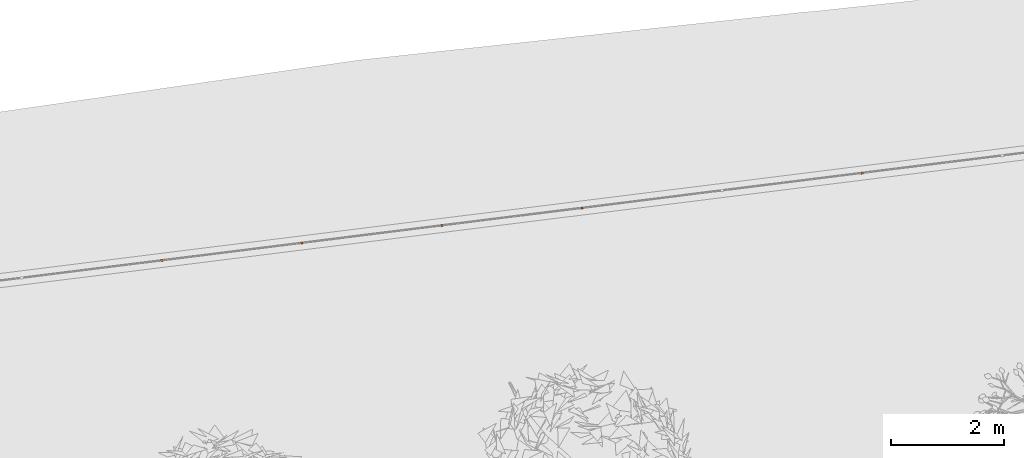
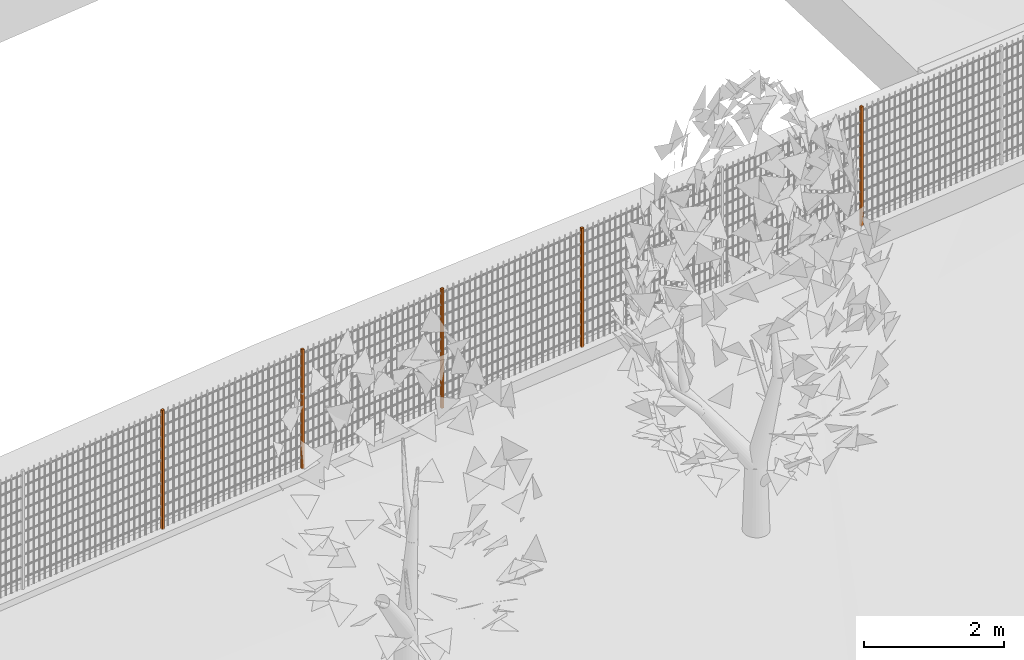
# One storey, part 45 of 1809: 5 proxies, 1 element without a shape of its own.
"""IFC2X3 building model written with IfcOpenShell, lengths in millimetres."""

from ifc_helpers import new_model, entity, si_unit, converted_unit, derived_unit, money_unit, direction, frame, origin_with_axes, place, context, subcontext, project, spatial, faceted_brep, source, transform, mapped, material, type_object, element, aggregate, save


model = new_model("IFC2X3")

# Units and contexts
model_context = context("Model", 3, precision=0.01, world=origin_with_axes(), true_north=direction((0.0, 1.0)))
body_context = subcontext(model_context, "Body", "Model", "MODEL_VIEW")
ifc_project = project(units=[si_unit("LENGTHUNIT", "METRE", prefix="MILLI"), si_unit("AREAUNIT", "SQUARE_METRE"), si_unit("VOLUMEUNIT", "CUBIC_METRE"), converted_unit("PLANEANGLEUNIT", "DEGREE", entity("IfcPlaneAngleMeasure", 0.0174532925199), si_unit("PLANEANGLEUNIT", "RADIAN"), dimensions=[0, 0, 0, 0, 0, 0, 0]), si_unit("SOLIDANGLEUNIT", "STERADIAN"), money_unit("EUR"), converted_unit("TIMEUNIT", "Year", entity("IfcTimeMeasure", 31556926.0), si_unit("TIMEUNIT", "SECOND"), dimensions=[0, 0, 1, 0, 0, 0, 0]), si_unit("MASSUNIT", "GRAM", prefix="KILO"), si_unit("THERMODYNAMICTEMPERATUREUNIT", "DEGREE_CELSIUS"), si_unit("LUMINOUSINTENSITYUNIT", "LUMEN"), si_unit("ENERGYUNIT", "JOULE", prefix="MEGA"), derived_unit("THERMALCONDUCTANCEUNIT", [(si_unit("POWERUNIT", "WATT"), 1), (si_unit("LENGTHUNIT", "METRE"), -1), (si_unit("THERMODYNAMICTEMPERATUREUNIT", "KELVIN"), -1)]), derived_unit("SPECIFICHEATCAPACITYUNIT", [(si_unit("ENERGYUNIT", "JOULE"), 1), (si_unit("MASSUNIT", "GRAM", prefix="KILO"), -1), (si_unit("THERMODYNAMICTEMPERATUREUNIT", "KELVIN"), -1)]), derived_unit("MASSDENSITYUNIT", [(si_unit("MASSUNIT", "GRAM", prefix="KILO"), 1), (si_unit("VOLUMEUNIT", "CUBIC_METRE"), -1)])], contexts=[model_context])

# Site, building, storey
site_placement = place(None, origin_with_axes())
site = spatial("IfcSite", under=ifc_project, at=site_placement, Name="Politse- ja Piirivalveameti ning Päästeameti ühishoone", CompositionType="ELEMENT")
building_placement = place(site_placement, origin_with_axes())
building = spatial("IfcBuilding", under=site, at=building_placement, Name="Politse- ja Piirivalveameti ning Päästeameti ühishoone", CompositionType="ELEMENT")
storey_placement = place(building_placement, origin_with_axes())
storey = spatial("IfcBuildingStorey", under=building, at=storey_placement, Name="Esimene korrus", CompositionType="ELEMENT", Elevation=0.0)

# Proxies
building_element_proxy_type_1 = type_object("IfcBuildingElementProxyType", Name="Railing Type", PredefinedType="NOTDEFINED")
proxy_1_placement = place(storey_placement, frame((44315.9245146, 76650.7857067, 296.762367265), z_axis=(0.0, 0.0, 1.0), x_axis=(0.122151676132, 0.992511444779, 0.0)))
proxy_1 = element("IfcBuildingElementProxy", 1, at=proxy_1_placement, inside=storey, type_object=building_element_proxy_type_1, Name="PIIRDEAED")
ifc_material = material(Name="ET-03_Raud")
building_element_proxy_type_2 = type_object("IfcBuildingElementProxyType", Name="IfcBuildingElementProxy", PredefinedType="NOTDEFINED")
shared_shape_1 = source(origin_with_axes(), body_context, "Body", "Brep", [
    faceted_brep([(20.0, 20.0, 0.0), (-20.0, 20.0, 0.0), (-20.0, 20.0, 2080.0), (20.0, 20.0, 2080.0), (20.0, -20.0, 0.0), (-20.0, -20.0, 0.0), (-20.0, -20.0, 2080.0), (20.0, -20.0, 2080.0)], [[[0, 1, 2, 3]], [[0, 4, 5, 1]], [[1, 5, 6, 2]], [[3, 2, 6, 7]], [[4, 0, 3, 7]], [[5, 4, 7, 6]]]),
])
proxy_2_placement = place(proxy_1_placement, frame((-2303.51736217, 8366.72519039, 0.0), z_axis=(0.0, 0.0, 1.0), x_axis=(0.122151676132, -0.992511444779, 0.0)))
proxy_2 = element("IfcBuildingElementProxy", 2, at=proxy_2_placement, type_object=building_element_proxy_type_2, material=ifc_material, Name="SISEPOST - 001", context=body_context, shape_type="MappedRepresentation", body=[
    mapped(shared_shape_1, transform((0.0, 0.0, 0.0), x_axis=(-0.123895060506, 0.99229532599, 0.0), y_axis=(-0.99229532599, -0.123895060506, 0.0), z_axis=(0.0, 0.0, 1.0))),
])
proxy_3_placement = place(proxy_1_placement, frame((-2913.96186915, 10791.0513862, 0.0), z_axis=(0.0, 0.0, 1.0), x_axis=(0.122151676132, -0.992511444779, 0.0)))
proxy_3 = element("IfcBuildingElementProxy", 3, at=proxy_3_placement, type_object=building_element_proxy_type_2, material=ifc_material, Name="SISEPOST - 001", context=body_context, shape_type="MappedRepresentation", body=[
    mapped(shared_shape_1, transform((0.0, 0.0, 0.0), x_axis=(-0.123895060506, 0.99229532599, 0.0), y_axis=(-0.99229532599, -0.123895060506, 0.0), z_axis=(0.0, 0.0, 1.0))),
])
shared_shape_2 = source(origin_with_axes(), body_context, "Body", "Brep", [
    faceted_brep([(20.0, 20.0, 0.0), (-20.0, 20.0, 0.0), (-20.0, 20.0, 2080.0), (20.0, 20.0, 2080.0), (20.0, -20.0, 0.0), (-20.0, -20.0, 0.0), (-20.0, -20.0, 2080.0), (20.0, -20.0, 2080.0)], [[[0, 1, 2, 3]], [[0, 4, 5, 1]], [[1, 5, 6, 2]], [[3, 2, 6, 7]], [[4, 0, 3, 7]], [[5, 4, 7, 6]]]),
])
proxy_4_placement = place(proxy_1_placement, frame((-472.183841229, 1093.74660284, 0.0), z_axis=(0.0, 0.0, 1.0), x_axis=(0.122151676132, -0.992511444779, 0.0)))
proxy_4 = element("IfcBuildingElementProxy", 4, at=proxy_4_placement, type_object=building_element_proxy_type_2, material=ifc_material, Name="SISEPOST - 001", context=body_context, shape_type="MappedRepresentation", body=[
    mapped(shared_shape_2, transform((0.0, 0.0, 0.0), x_axis=(-0.123895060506, 0.99229532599, 0.0), y_axis=(-0.99229532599, -0.123895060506, 0.0), z_axis=(0.0, 0.0, 1.0))),
])
proxy_5_placement = place(proxy_1_placement, frame((-1693.07285519, 5942.39899454, 0.0), z_axis=(0.0, 0.0, 1.0), x_axis=(0.122151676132, -0.992511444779, 0.0)))
proxy_5 = element("IfcBuildingElementProxy", 5, at=proxy_5_placement, type_object=building_element_proxy_type_2, material=ifc_material, Name="SISEPOST - 001", context=body_context, shape_type="MappedRepresentation", body=[
    mapped(shared_shape_2, transform((0.0, 0.0, 0.0), x_axis=(-0.123895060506, 0.99229532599, 0.0), y_axis=(-0.99229532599, -0.123895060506, 0.0), z_axis=(0.0, 0.0, 1.0))),
])
shared_shape_3 = source(origin_with_axes(), body_context, "Body", "Brep", [
    faceted_brep([(20.0, 20.0, 0.0), (-20.0, 20.0, 0.0), (-20.0, 20.0, 2080.0), (20.0, 20.0, 2080.0), (20.0, -20.0, 0.0), (-20.0, -20.0, 0.0), (-20.0, -20.0, 2080.0), (20.0, -20.0, 2080.0)], [[[0, 1, 2, 3]], [[0, 4, 5, 1]], [[1, 5, 6, 2]], [[3, 2, 6, 7]], [[4, 0, 3, 7]], [[5, 4, 7, 6]]]),
])
proxy_6_placement = place(proxy_1_placement, frame((-3524.40637613, 13215.3775821, 0.0), z_axis=(0.0, 0.0, 1.0), x_axis=(0.122151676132, -0.992511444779, 0.0)))
proxy_6 = element("IfcBuildingElementProxy", 6, at=proxy_6_placement, type_object=building_element_proxy_type_2, material=ifc_material, Name="SISEPOST - 001", context=body_context, shape_type="MappedRepresentation", body=[
    mapped(shared_shape_3, transform((0.0, 0.0, 0.0), x_axis=(-0.123895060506, 0.99229532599, 0.0), y_axis=(-0.99229532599, -0.123895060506, 0.0), z_axis=(0.0, 0.0, 1.0))),
])
aggregate(proxy_1, [proxy_4, proxy_5, proxy_2, proxy_3, proxy_6])

save(model, "model.ifc")
